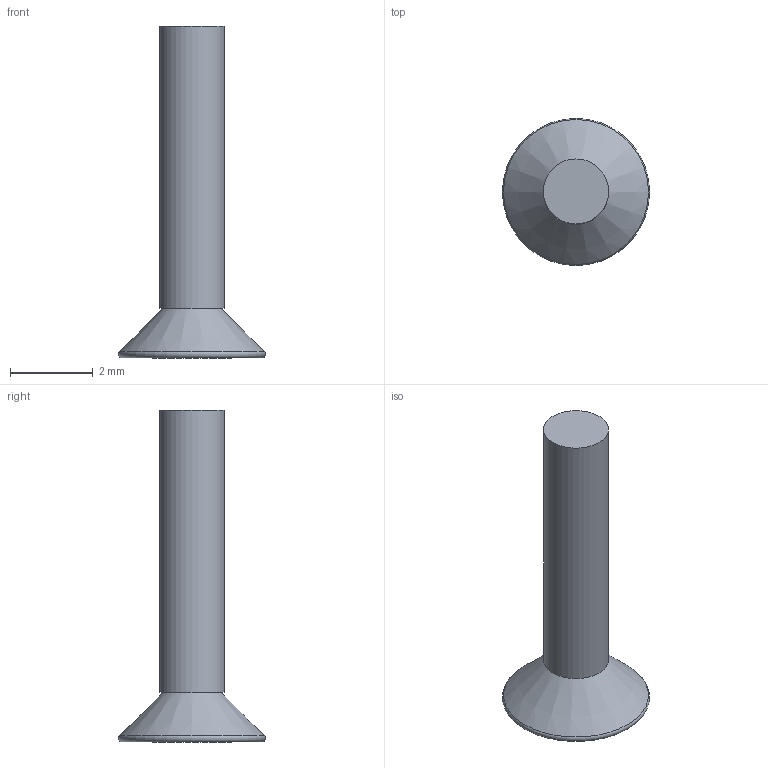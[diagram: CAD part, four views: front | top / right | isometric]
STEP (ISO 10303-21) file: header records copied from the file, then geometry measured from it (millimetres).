
FILE_DESCRIPTION(('Open CASCADE Model'),'2;1');
FILE_NAME('C27_UC1_HW_Front_Clamp_-17','2026-09-09T20:28:19',('Author'), ('Open CASCADE'),'Open CASCADE STEP processor 7.9','build123d', 'Unknown');
FILE_SCHEMA(('AUTOMOTIVE_DESIGN { 1 0 10303 214 1 1 1 1 }'));
Length unit declared in the file: millimetre
Products named in the file (2): C27_UC1_HW_Front_Clamp_-17; C27_UC1_HW_Front_Clamp_-17_1
Assembly tree (1 placements, depth 2):
  C27_UC1_HW_Front_Clamp_-17
    C27_UC1_HW_Front_Clamp_-17_1
Bounding box: 3.55 x 3.55 x 8 mm (x, y, z)
Volume: 19.2 mm3; surface area: 61.2 mm2
Topology: 1 solids, 1 shells, 27 faces, 68 edges, 45 vertices
Faces by surface type: bspline 20, plane 4, cylinder 1, cone 1, torus 1
Full cylindrical faces by diameter (mm): 1.567 x1
Entity records: 1820 total; most frequent: CARTESIAN_POINT 514, DIRECTION 208, ORIENTED_EDGE 136, PCURVE 136, DEFINITIONAL_REPRESENTATION 136, LINE 106, VECTOR 106, EDGE_CURVE 68
